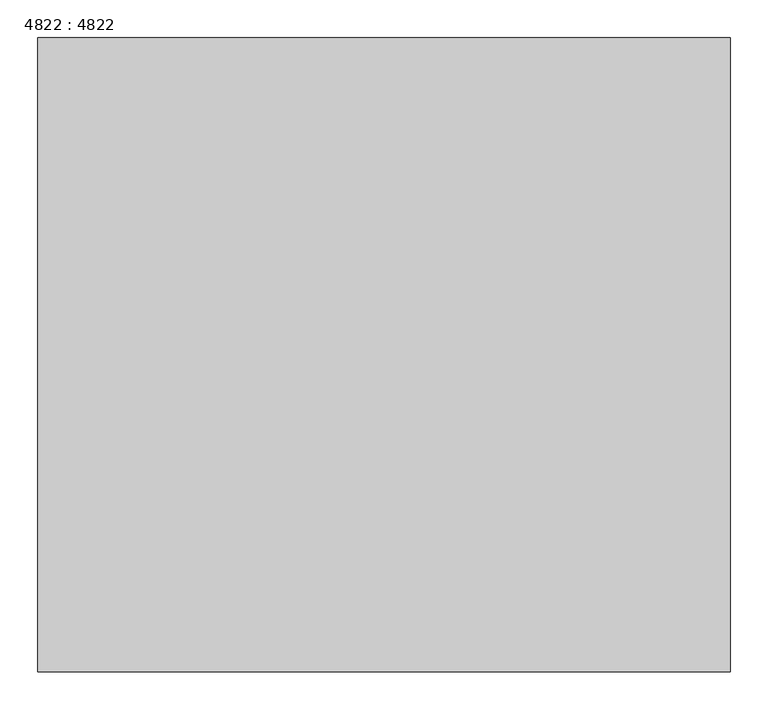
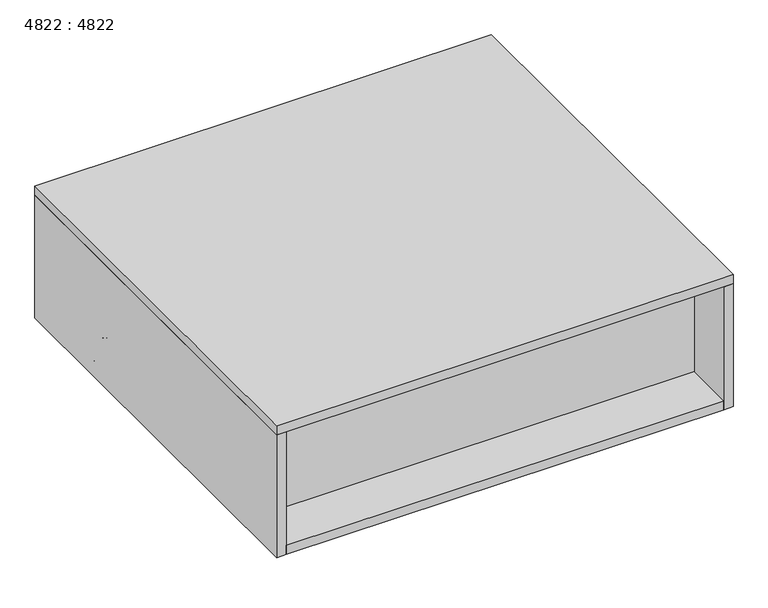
"""IFC4 building model written with IfcOpenShell, lengths in millimetres: furniture geometry, 4822 : 4822."""

from ifc_helpers import new_model, si_unit, point, frame, frame_2d, origin, place, context, project, spatial, polyline, circle_curve, ellipse_curve, trimmed, segment, composite_curve, outline, extrude, source, transform, mapped, element, save
from ifc_brep_helpers import plane_surface, cylinder_surface, revolved_surface, advanced_brep


def furniture_4822_4822_f64f6449(model_context):
    return source(origin(), model_context, "Body", "SolidModel", [
        advanced_brep(
        [(-320.675, -38.1, 41.5925), (-415.925, -38.1, 41.5925), (-419.1, -41.275, 41.5925), (-419.1, -136.525, 41.5925), (-415.925, -139.7, 41.5925), (-320.675, -139.7, 41.5925), (-317.5, -136.525, 41.5925), (-317.5, -41.275, 41.5925), (-417.83, -41.275, 11.1125), (-415.925, -39.37, 11.1125), (-320.675, -39.37, 11.1125), (-318.77, -41.275, 11.1125), (-318.77, -136.525, 11.1125), (-320.675, -138.43, 11.1125), (-415.925, -138.43, 11.1125), (-417.83, -136.525, 11.1125), (-320.675, -38.1, 11.1125), (-415.925, -38.1, 11.1125), (-419.1, -41.275, 11.1125), (-419.1, -136.525, 11.1125), (-415.925, -139.7, 11.1125), (-320.675, -139.7, 11.1125), (-317.5, -136.525, 11.1125), (-317.5, -41.275, 11.1125), (-415.925, -39.37, 9.8425), (-417.83, -41.275, 9.8425), (-320.675, -39.37, 9.8425), (-318.77, -41.275, 9.8425), (-318.77, -136.525, 9.8425), (-320.675, -138.43, 9.8425), (-415.925, -138.43, 9.8425), (-417.83, -136.525, 9.8425)],
        [
            (0, 1),
            (1, 2, circle_curve(frame((-415.925, -41.275, 41.5925), z_axis=(0.0, 0.0, 1.0), x_axis=(1.0, 0.0, 0.0)), 3.175)),
            (2, 3),
            (3, 4, circle_curve(frame((-415.925, -136.525, 41.5925), z_axis=(0.0, 0.0, 1.0), x_axis=(1.0, 0.0, 0.0)), 3.175)),
            (4, 5),
            (5, 6, circle_curve(frame((-320.675, -136.525, 41.5925), z_axis=(0.0, 0.0, 1.0), x_axis=(1.0, 0.0, 0.0)), 3.175)),
            (6, 7),
            (7, 0, circle_curve(frame((-320.675, -41.275, 41.5925), z_axis=(0.0, 0.0, 1.0), x_axis=(1.0, 0.0, 0.0)), 3.175)),
            (8, 9, circle_curve(frame((-415.925, -41.275, 11.1125), z_axis=(0.0, 0.0, -1.0), x_axis=(-1.0, 0.0, 0.0)), 1.905)),
            (9, 10),
            (10, 11, circle_curve(frame((-320.675, -41.275, 11.1125), z_axis=(0.0, 0.0, -1.0), x_axis=(0.0, 1.0, 0.0)), 1.905)),
            (11, 12),
            (12, 13, circle_curve(frame((-320.675, -136.525, 11.1125), z_axis=(0.0, 0.0, -1.0), x_axis=(1.0, 0.0, 0.0)), 1.905)),
            (13, 14),
            (14, 15, circle_curve(frame((-415.925, -136.525, 11.1125), z_axis=(0.0, 0.0, -1.0), x_axis=(0.0, -1.0, 0.0)), 1.905)),
            (15, 8),
            (0, 16),
            (16, 17),
            (17, 1),
            (17, 18, circle_curve(frame((-415.925, -41.275, 11.1125), z_axis=(0.0, 0.0, 1.0), x_axis=(1.0, 0.0, 0.0)), 3.175)),
            (18, 2),
            (18, 19),
            (19, 3),
            (19, 20, circle_curve(frame((-415.925, -136.525, 11.1125), z_axis=(0.0, 0.0, 1.0), x_axis=(1.0, 0.0, 0.0)), 3.175)),
            (20, 4),
            (20, 21),
            (21, 5),
            (21, 22, circle_curve(frame((-320.675, -136.525, 11.1125), z_axis=(0.0, 0.0, 1.0), x_axis=(1.0, 0.0, 0.0)), 3.175)),
            (22, 6),
            (22, 23),
            (23, 7),
            (23, 16, circle_curve(frame((-320.675, -41.275, 11.1125), z_axis=(0.0, 0.0, 1.0), x_axis=(1.0, 0.0, 0.0)), 3.175)),
            (24, 25, circle_curve(frame((-415.925, -41.275, 9.8425), z_axis=(0.0, 0.0, 1.0), x_axis=(-1.0, 0.0, 0.0)), 1.905)),
            (25, 18, circle_curve(frame((-417.83, -41.275, 11.1125), z_axis=(0.0, 1.0, 0.0), x_axis=(1.0, 0.0, 0.0)), 1.27)),
            (17, 24, circle_curve(frame((-415.925, -39.37, 11.1125), z_axis=(-1.0, 0.0, 0.0), x_axis=(0.0, -1.0, 0.0)), 1.27)),
            (16, 26, circle_curve(frame((-320.675, -39.37, 11.1125), z_axis=(-1.0, 0.0, 0.0), x_axis=(0.0, -1.0, 0.0)), 1.27)),
            (26, 24),
            (23, 27, circle_curve(frame((-318.77, -41.275, 11.1125), z_axis=(0.0, 1.0, 0.0), x_axis=(-1.0, 0.0, 0.0)), 1.27)),
            (27, 26, circle_curve(frame((-320.675, -41.275, 9.8425), z_axis=(0.0, 0.0, 1.0), x_axis=(0.0, 1.0, 0.0)), 1.905)),
            (22, 28, circle_curve(frame((-318.77, -136.525, 11.1125), z_axis=(0.0, 1.0, 0.0), x_axis=(-1.0, 0.0, 0.0)), 1.27)),
            (28, 27),
            (21, 29, circle_curve(frame((-320.675, -138.43, 11.1125), z_axis=(1.0, 0.0, 0.0), x_axis=(0.0, 1.0, 0.0)), 1.27)),
            (29, 28, circle_curve(frame((-320.675, -136.525, 9.8425), z_axis=(0.0, 0.0, 1.0), x_axis=(1.0, 0.0, 0.0)), 1.905)),
            (20, 30, circle_curve(frame((-415.925, -138.43, 11.1125), z_axis=(1.0, 0.0, 0.0), x_axis=(0.0, 1.0, 0.0)), 1.27)),
            (30, 29),
            (19, 31, circle_curve(frame((-417.83, -136.525, 11.1125), z_axis=(0.0, -1.0, 0.0), x_axis=(1.0, 0.0, 0.0)), 1.27)),
            (31, 30, circle_curve(frame((-415.925, -136.525, 9.8425), z_axis=(0.0, 0.0, 1.0), x_axis=(0.0, -1.0, 0.0)), 1.905)),
            (25, 31),
            (24, 9),
            (8, 25),
            (26, 10),
            (27, 11),
            (28, 12),
            (29, 13),
            (30, 14),
            (31, 15),
        ],
        [
            plane_surface(frame((-415.925, -38.1, 41.5925), z_axis=(0.0, 0.0, 1.0), x_axis=(-1.0, 0.0, 0.0))),
            plane_surface(frame((-415.925, -38.1, 11.1125), z_axis=(0.0, 0.0, -1.0), x_axis=(1.0, 0.0, 0.0))),
            plane_surface(frame((-320.675, -38.1, 41.5925), z_axis=(0.0, 1.0, 0.0), x_axis=(0.0, 0.0, -1.0))),
            cylinder_surface(frame((-415.925, -41.275, 11.1125), z_axis=(0.0, 0.0, 1.0), x_axis=(1.0, 0.0, 0.0)), 3.175),
            plane_surface(frame((-419.1, -41.275, 41.5925), z_axis=(-1.0, 0.0, 0.0), x_axis=(0.0, 0.0, -1.0))),
            cylinder_surface(frame((-415.925, -136.525, 11.1125), z_axis=(0.0, 0.0, 1.0), x_axis=(1.0, 0.0, 0.0)), 3.175),
            plane_surface(frame((-415.925, -139.7, 41.5925), z_axis=(0.0, -1.0, 0.0), x_axis=(0.0, 0.0, -1.0))),
            cylinder_surface(frame((-320.675, -136.525, 11.1125), z_axis=(0.0, 0.0, 1.0), x_axis=(1.0, 0.0, 0.0)), 3.175),
            plane_surface(frame((-317.5, -136.525, 41.5925), z_axis=(1.0, 0.0, 0.0), x_axis=(0.0, 0.0, -1.0))),
            cylinder_surface(frame((-320.675, -41.275, 11.1125), z_axis=(0.0, 0.0, 1.0), x_axis=(1.0, 0.0, 0.0)), 3.175),
            revolved_surface(trimmed(ellipse_curve(frame((-417.83, -41.275, 11.1125), z_axis=(0.0, -1.0, 0.0), x_axis=(1.0, 0.0, 0.0)), 1.27, 1.27), [point((-419.1, -41.275, 11.1125))], [point((-417.83, -41.275, 9.8425))], True, "CARTESIAN"), (-415.925, -41.275, 11.1125), (0.0, 0.0, -1.0)),
            cylinder_surface(frame((-415.925, -39.37, 11.1125), z_axis=(-1.0, 0.0, 0.0), x_axis=(0.0, -1.0, 0.0)), 1.27),
            revolved_surface(trimmed(ellipse_curve(frame((-320.675, -39.37, 11.1125), z_axis=(-1.0, 0.0, 0.0), x_axis=(0.0, -1.0, 0.0)), 1.27, 1.27), [point((-320.675, -38.1, 11.1125))], [point((-320.675, -39.37, 9.8425))], True, "CARTESIAN"), (-320.675, -41.275, 11.1125), (0.0, 0.0, -1.0)),
            cylinder_surface(frame((-318.77, -41.275, 11.1125), z_axis=(0.0, 1.0, 0.0), x_axis=(-1.0, 0.0, 0.0)), 1.27),
            revolved_surface(trimmed(ellipse_curve(frame((-318.77, -136.525, 11.1125), z_axis=(0.0, 1.0, 0.0), x_axis=(-1.0, 0.0, 0.0)), 1.27, 1.27), [point((-317.5, -136.525, 11.1125))], [point((-318.77, -136.525, 9.8425))], True, "CARTESIAN"), (-320.675, -136.525, 11.1125), (0.0, 0.0, -1.0)),
            cylinder_surface(frame((-320.675, -138.43, 11.1125), z_axis=(1.0, 0.0, 0.0), x_axis=(0.0, 1.0, 0.0)), 1.27),
            revolved_surface(trimmed(ellipse_curve(frame((-415.925, -138.43, 11.1125), z_axis=(1.0, 0.0, 0.0), x_axis=(0.0, 1.0, 0.0)), 1.27, 1.27), [point((-415.925, -139.7, 11.1125))], [point((-415.925, -138.43, 9.8425))], True, "CARTESIAN"), (-415.925, -136.525, 11.1125), (0.0, 0.0, -1.0)),
            cylinder_surface(frame((-417.83, -136.525, 11.1125), z_axis=(0.0, -1.0, 0.0), x_axis=(1.0, 0.0, 0.0)), 1.27),
            revolved_surface(polyline([(-417.83, -41.275, 9.8425), (-417.83, -41.275, 11.1125)]), (-415.925, -41.275, 11.1125), (0.0, 0.0, -1.0)),
            plane_surface(frame((-415.925, -39.37, 9.8425), z_axis=(0.0, -1.0, 0.0), x_axis=(1.0, 0.0, 0.0))),
            revolved_surface(polyline([(-320.675, -39.37, 9.8425), (-320.675, -39.37, 11.1125)]), (-320.675, -41.275, 11.1125), (0.0, 0.0, -1.0)),
            plane_surface(frame((-318.77, -41.275, 9.8425), z_axis=(-1.0, 0.0, 0.0), x_axis=(0.0, -1.0, 0.0))),
            revolved_surface(polyline([(-318.77000000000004, -136.525, 9.8425), (-318.77000000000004, -136.525, 11.1125)]), (-320.675, -136.525, 11.1125), (0.0, 0.0, -1.0)),
            plane_surface(frame((-320.675, -138.43, 9.8425), z_axis=(0.0, 1.0, 0.0), x_axis=(-1.0, 0.0, 0.0))),
            revolved_surface(polyline([(-415.925, -138.43, 9.8425), (-415.925, -138.43, 11.1125)]), (-415.925, -136.525, 11.1125), (0.0, 0.0, -1.0)),
            plane_surface(frame((-417.83, -136.525, 9.8425), z_axis=(1.0, 0.0, 0.0), x_axis=(0.0, 1.0, 0.0))),
        ],
        [
            (0, [[1, 2, 3, 4, 5, 6, 7, 8]]),
            (1, [[9, 10, 11, 12, 13, 14, 15, 16]]),
            (2, [[-1, 17, 18, 19]]),
            (3, [[-2, -19, 20, 21]]),
            (4, [[-3, -21, 22, 23]]),
            (5, [[-4, -23, 24, 25]]),
            (6, [[-5, -25, 26, 27]]),
            (7, [[-6, -27, 28, 29]]),
            (8, [[-7, -29, 30, 31]]),
            (9, [[-8, -31, 32, -17]]),
            (10, [[33, 34, -20, 35]]),
            (11, [[-35, -18, 36, 37]]),
            (12, [[-36, -32, 38, 39]]),
            (13, [[-38, -30, 40, 41]]),
            (14, [[-40, -28, 42, 43]]),
            (15, [[-42, -26, 44, 45]]),
            (16, [[-44, -24, 46, 47]]),
            (17, [[-34, 48, -46, -22]]),
            (18, [[-33, 49, -9, 50]]),
            (19, [[-37, 51, -10, -49]]),
            (20, [[-39, 52, -11, -51]]),
            (21, [[-41, 53, -12, -52]]),
            (22, [[-43, 54, -13, -53]]),
            (23, [[-45, 55, -14, -54]]),
            (24, [[-47, 56, -15, -55]]),
            (25, [[-48, -50, -16, -56]]),
        ],
    ),
        extrude(outline(composite_curve([segment(trimmed(circle_curve(frame_2d((-415.925, -136.525)), 1.905), [point((-415.925, -138.43))], [point((-417.83, -136.525))], False, "CARTESIAN"), True, "CONTINUOUS"), segment(polyline([(-417.83, -136.525), (-417.83, -41.275)]), True, "CONTINUOUS"), segment(trimmed(circle_curve(frame_2d((-415.925, -41.275)), 1.905), [point((-417.83, -41.275))], [point((-415.925, -39.37))], False, "CARTESIAN"), True, "CONTINUOUS"), segment(polyline([(-415.925, -39.37), (-320.675, -39.37)]), True, "CONTINUOUS"), segment(trimmed(circle_curve(frame_2d((-320.675, -41.275)), 1.905), [point((-320.675, -39.37))], [point((-318.77, -41.275))], False, "CARTESIAN"), True, "CONTINUOUS"), segment(polyline([(-318.77, -41.275), (-318.77, -136.525)]), True, "CONTINUOUS"), segment(trimmed(circle_curve(frame_2d((-320.675, -136.525)), 1.905), [point((-318.77, -136.525))], [point((-320.675, -138.43))], False, "CARTESIAN"), True, "CONTINUOUS"), segment(polyline([(-320.675, -138.43), (-415.925, -138.43)]), True, "CONTINUOUS")], self_intersect=False)), frame((0.0, 0.0, 9.8425), z_axis=(0.0, 0.0, 1.0), x_axis=(1.0, 0.0, 0.0)), (0.0, 0.0, 1.0), 1.27),
        advanced_brep(
        [(-378.4521334, -88.9, 0.0), (-358.1478666, -88.9, 0.0), (-368.3, -88.9, 0.0), (-378.7775, -88.9, 5.08), (-357.8225, -88.9, 5.08), (-378.7775, -88.9, 9.0481974), (-357.8225, -88.9, 9.0481974), (-377.9831974, -88.9, 9.8425), (-358.6168026, -88.9, 9.8425), (-368.3, -88.9, 9.8425)],
        [
            (0, 1, circle_curve(frame((-368.3, -88.9, 0.0), z_axis=(0.0, 0.0, -1.0), x_axis=(1.0, 0.0, 0.0)), 10.1521334)),
            (1, 2),
            (2, 0),
            (1, 0, circle_curve(frame((-368.3, -88.9, 0.0), z_axis=(0.0, 0.0, -1.0), x_axis=(1.0, 0.0, 0.0)), 10.1521334)),
            (3, 4, circle_curve(frame((-368.3, -88.9, 5.08), z_axis=(0.0, 0.0, -1.0), x_axis=(1.0, 0.0, 0.0)), 10.4775)),
            (4, 1, circle_curve(frame((-358.1478666, -88.9, 2.5504196), z_axis=(0.0, 1.0, 0.0), x_axis=(1.0, 0.0, 0.0)), 2.5504196)),
            (0, 3, circle_curve(frame((-378.4521334, -88.9, 2.5504196), z_axis=(0.0, 1.0, 0.0), x_axis=(-1.0, 0.0, 0.0)), 2.5504196)),
            (4, 3, circle_curve(frame((-368.3, -88.9, 5.08), z_axis=(0.0, 0.0, -1.0), x_axis=(1.0, 0.0, 0.0)), 10.4775)),
            (5, 6, circle_curve(frame((-368.3, -88.9, 9.0481974), z_axis=(0.0, 0.0, -1.0), x_axis=(1.0, 0.0, 0.0)), 10.4775)),
            (6, 4),
            (3, 5),
            (6, 5, circle_curve(frame((-368.3, -88.9, 9.0481974), z_axis=(0.0, 0.0, -1.0), x_axis=(1.0, 0.0, 0.0)), 10.4775)),
            (7, 8, circle_curve(frame((-368.3, -88.9, 9.8425), z_axis=(0.0, 0.0, -1.0), x_axis=(1.0, 0.0, 0.0)), 9.6831974)),
            (8, 6, circle_curve(frame((-358.6168026, -88.9, 9.0481974), z_axis=(0.0, 1.0, 0.0), x_axis=(1.0, 0.0, 0.0)), 0.7943026)),
            (5, 7, circle_curve(frame((-377.9831974, -88.9, 9.0481974), z_axis=(0.0, 1.0, 0.0), x_axis=(-1.0, 0.0, 0.0)), 0.7943026)),
            (8, 7, circle_curve(frame((-368.3, -88.9, 9.8425), z_axis=(0.0, 0.0, -1.0), x_axis=(1.0, 0.0, 0.0)), 9.6831974)),
            (9, 8),
            (7, 9),
        ],
        [
            plane_surface(frame((-368.3, -88.9, 0.0), z_axis=(0.0, 0.0, -1.0), x_axis=(1.0, 0.0, 0.0))),
            revolved_surface(trimmed(ellipse_curve(frame((-358.1478666, -88.9, 2.5504196), z_axis=(0.0, -1.0, 0.0), x_axis=(1.0, 0.0, 0.0)), 2.5504196, 2.5504196), [point((-358.1478666, -88.9, 0.0))], [point((-357.8225, -88.9, 5.08))], True, "CARTESIAN"), (-368.3, -88.9, 9.8425), (0.0, 0.0, 1.0)),
            cylinder_surface(frame((-368.3, -88.9, 9.8425), z_axis=(0.0, 0.0, 1.0), x_axis=(1.0, 0.0, 0.0)), 10.4775),
            revolved_surface(trimmed(ellipse_curve(frame((-358.6168026, -88.9, 9.0481974), z_axis=(0.0, -1.0, 0.0), x_axis=(1.0, 0.0, 0.0)), 0.7943026, 0.7943026), [point((-357.8225, -88.9, 9.0481974))], [point((-358.6168026, -88.9, 9.8425))], True, "CARTESIAN"), (-368.3, -88.9, 9.8425), (0.0, 0.0, 1.0)),
            plane_surface(frame((-368.3, -88.9, 9.8425), z_axis=(0.0, 0.0, 1.0), x_axis=(1.0, 0.0, 0.0))),
        ],
        [
            (0, [[1, 2, 3]]),
            (0, [[4, -3, -2]]),
            (1, [[5, 6, -1, 7]]),
            (1, [[8, -7, -4, -6]]),
            (2, [[9, 10, -5, 11]]),
            (2, [[12, -11, -8, -10]]),
            (3, [[13, 14, -9, 15]]),
            (3, [[16, -15, -12, -14]]),
            (4, [[17, -13, 18]]),
            (4, [[-18, -16, -17]]),
        ],
    ),
        extrude(outline(polyline([(438.15, -101.6), (438.15, -736.6), (-438.15, -736.6), (-438.15, -101.6), (438.15, -101.6)])), frame((0.0, 0.0, 50.8), z_axis=(0.0, 0.0, 1.0), x_axis=(1.0, 0.0, 0.0)), (0.0, 0.0, 1.0), 241.3),
        extrude(outline(polyline([(457.2, 0.0), (457.2, -838.2), (-457.2, -838.2), (-457.2, 0.0), (457.2, 0.0)])), frame((0.0, 0.0, 292.1), z_axis=(0.0, 0.0, 1.0), x_axis=(1.0, 0.0, 0.0)), (0.0, 0.0, 1.0), 19.05),
        extrude(outline(polyline([(457.2, 0.0), (457.2, -838.2), (438.15, -838.2), (438.15, 0.0), (457.2, 0.0)])), frame((0.0, 0.0, 31.75), z_axis=(0.0, 0.0, 1.0), x_axis=(1.0, 0.0, 0.0)), (0.0, 0.0, 1.0), 260.35),
        extrude(outline(polyline([(-457.2, 0.0), (-438.15, 0.0), (-438.15, -838.2), (-457.2, -838.2), (-457.2, 0.0)])), frame((0.0, 0.0, 31.75), z_axis=(0.0, 0.0, 1.0), x_axis=(1.0, 0.0, 0.0)), (0.0, 0.0, 1.0), 260.35),
        extrude(outline(polyline([(438.15, 0.0), (438.15, -838.2), (-438.15, -838.2), (-438.15, 0.0), (438.15, 0.0)])), frame((0.0, 0.0, 31.75), z_axis=(0.0, 0.0, 1.0), x_axis=(1.0, 0.0, 0.0)), (0.0, 0.0, 1.0), 19.05),
    ])


if __name__ == "__main__":
    model = new_model("IFC4")
    model_context = context("Model", 3, world=origin())
    ifc_project = project(units=[si_unit("LENGTHUNIT", "METRE", prefix="MILLI")], contexts=[model_context])
    site = spatial("IfcSite", under=ifc_project)
    building = spatial("IfcBuilding", under=site)
    placement = place(None, origin())
    furniture_4822_4822_shape = furniture_4822_4822_f64f6449(model_context)
    element("IfcFurniture", 1, ObjectType="4822 : 4822", at=placement, inside=building, context=model_context, shape_type="MappedRepresentation", body=[
        mapped(furniture_4822_4822_shape, transform((0.0, 0.0, 0.0), x_axis=(1.0, 0.0, 0.0), y_axis=(0.0, 1.0, 0.0), z_axis=(0.0, 0.0, 1.0))),
    ])
    save(model, "model.ifc")
